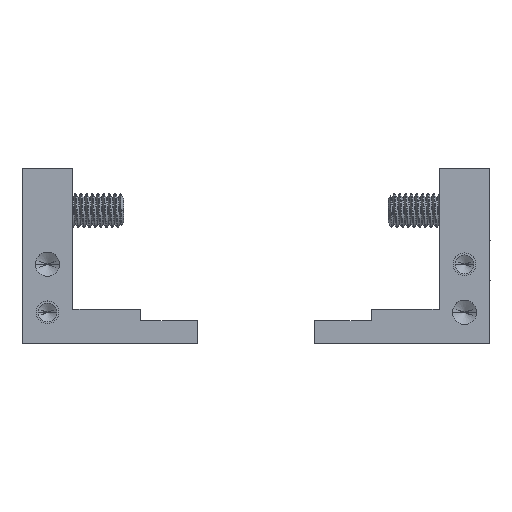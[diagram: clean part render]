
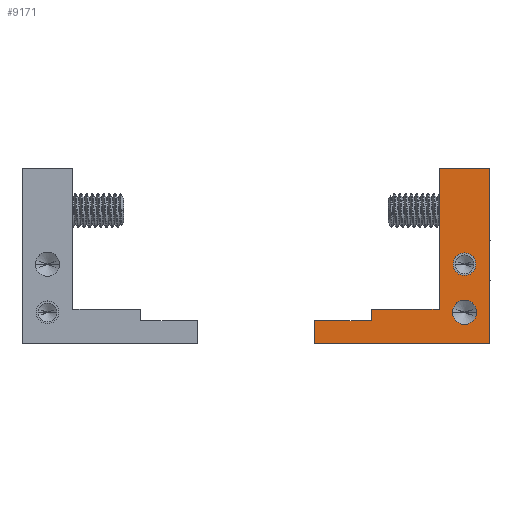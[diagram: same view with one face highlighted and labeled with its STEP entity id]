
A CAD part, top view. The second image highlights one B-rep face of the part: STEP entity #9171.
In plain terms, the highlighted planar face has unit normal (0, 0, 1) as drawn and (-1, 0, 0) by its records, which use the part's own axes.
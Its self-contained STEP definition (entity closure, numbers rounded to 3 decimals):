
#1 = LINE ( 'NONE', #17548, #19062 ) ;
#4 = VECTOR ( 'NONE', #5885, 1000. ) ;
#112 = VERTEX_POINT ( 'NONE', #8126 ) ;
#121 = CARTESIAN_POINT ( 'NONE',  ( -26., -14.5, -12. ) ) ;
#536 = ORIENTED_EDGE ( 'NONE', *, *, #7662, .F. ) ;
#1214 = FACE_BOUND ( 'NONE', #17981, .T. ) ;
#1224 = VERTEX_POINT ( 'NONE', #5536 ) ;
#1626 = VECTOR ( 'NONE', #16676, 1000. ) ;
#1667 = ORIENTED_EDGE ( 'NONE', *, *, #3433, .T. ) ;
#1972 = LINE ( 'NONE', #10066, #20265 ) ;
#2085 = DIRECTION ( 'NONE',  ( 0., 0., -1. ) ) ;
#2180 = DIRECTION ( 'NONE',  ( -1., 0., 0. ) ) ;
#2361 = FACE_OUTER_BOUND ( 'NONE', #20489, .T. ) ;
#2410 = ORIENTED_EDGE ( 'NONE', *, *, #9799, .T. ) ;
#2926 = LINE ( 'NONE', #17426, #8800 ) ;
#3356 = CARTESIAN_POINT ( 'NONE',  ( -26., -18.5, 9. ) ) ;
#3433 = EDGE_CURVE ( 'NONE', #13041, #7295, #20677, .T. ) ;
#3863 = CARTESIAN_POINT ( 'NONE',  ( -26., -14.5, -12. ) ) ;
#3928 = AXIS2_PLACEMENT_3D ( 'NONE', #11651, #8730, #13564 ) ;
#4052 = VECTOR ( 'NONE', #8304, 1000. ) ;
#4081 = DIRECTION ( 'NONE',  ( -1., 0., 0. ) ) ;
#4145 = ORIENTED_EDGE ( 'NONE', *, *, #14797, .F. ) ;
#4255 = CIRCLE ( 'NONE', #3928, 2. ) ;
#4938 = AXIS2_PLACEMENT_3D ( 'NONE', #7257, #4081, #9441 ) ;
#5142 = DIRECTION ( 'NONE',  ( 0., 0., 1. ) ) ;
#5155 = ORIENTED_EDGE ( 'NONE', *, *, #17009, .F. ) ;
#5161 = ORIENTED_EDGE ( 'NONE', *, *, #14125, .T. ) ;
#5438 = VECTOR ( 'NONE', #9025, 1000. ) ;
#5536 = CARTESIAN_POINT ( 'NONE',  ( -26., -14.5, -22. ) ) ;
#5885 = DIRECTION ( 'NONE',  ( 0., -1., 0. ) ) ;
#6160 = FACE_BOUND ( 'NONE', #10882, .T. ) ;
#6272 = CARTESIAN_POINT ( 'NONE',  ( -26., 12.5, 9. ) ) ;
#6496 = ORIENTED_EDGE ( 'NONE', *, *, #17879, .F. ) ;
#6906 = VERTEX_POINT ( 'NONE', #8457 ) ;
#7257 = CARTESIAN_POINT ( 'NONE',  ( -26., -13., 4.5 ) ) ;
#7295 = VERTEX_POINT ( 'NONE', #7349 ) ;
#7349 = CARTESIAN_POINT ( 'NONE',  ( -26., 12.5, 0. ) ) ;
#7364 = CARTESIAN_POINT ( 'NONE',  ( -26., -12.5, 9. ) ) ;
#7453 = CIRCLE ( 'NONE', #19189, 2.15 ) ;
#7662 = EDGE_CURVE ( 'NONE', #13019, #10571, #4255, .T. ) ;
#7793 = VECTOR ( 'NONE', #18549, 1000. ) ;
#7864 = ORIENTED_EDGE ( 'NONE', *, *, #17503, .F. ) ;
#7983 = CARTESIAN_POINT ( 'NONE',  ( -26., 12.5, 9. ) ) ;
#8126 = CARTESIAN_POINT ( 'NONE',  ( -26., -18.5, -22. ) ) ;
#8299 = EDGE_CURVE ( 'NONE', #14465, #16843, #1, .T. ) ;
#8304 = DIRECTION ( 'NONE',  ( 0., 1., 0. ) ) ;
#8457 = CARTESIAN_POINT ( 'NONE',  ( -26., -13., 6.65 ) ) ;
#8730 = DIRECTION ( 'NONE',  ( -1., 0., 0. ) ) ;
#8800 = VECTOR ( 'NONE', #15839, 1000. ) ;
#8908 = EDGE_CURVE ( 'NONE', #6906, #20052, #19741, .T. ) ;
#8937 = LINE ( 'NONE', #7364, #4 ) ;
#9025 = DIRECTION ( 'NONE',  ( 0., 0., -1. ) ) ;
#9171 = ADVANCED_FACE ( 'NONE', ( #1214, #6160, #2361 ), #17379, .F. ) ;
#9441 = DIRECTION ( 'NONE',  ( 0., 0., 1. ) ) ;
#9571 = CARTESIAN_POINT ( 'NONE',  ( -26., -4.5, 4.5 ) ) ;
#9799 = EDGE_CURVE ( 'NONE', #7295, #14465, #16356, .T. ) ;
#10065 = CARTESIAN_POINT ( 'NONE',  ( -26., -12.5, 0. ) ) ;
#10066 = CARTESIAN_POINT ( 'NONE',  ( -26., -18.5, 9. ) ) ;
#10230 = ORIENTED_EDGE ( 'NONE', *, *, #11253, .F. ) ;
#10571 = VERTEX_POINT ( 'NONE', #17526 ) ;
#10882 = EDGE_LOOP ( 'NONE', ( #5155, #536 ) ) ;
#11238 = CARTESIAN_POINT ( 'NONE',  ( -26., -4.5, 2.5 ) ) ;
#11253 = EDGE_CURVE ( 'NONE', #13041, #13153, #8937, .T. ) ;
#11341 = DIRECTION ( 'NONE',  ( -1., 0., 0. ) ) ;
#11651 = CARTESIAN_POINT ( 'NONE',  ( -26., -4.5, 4.5 ) ) ;
#11652 = LINE ( 'NONE', #121, #4052 ) ;
#11831 = CARTESIAN_POINT ( 'NONE',  ( -26., -13., 4.5 ) ) ;
#11889 = CARTESIAN_POINT ( 'NONE',  ( -26., -12.5, -12. ) ) ;
#13019 = VERTEX_POINT ( 'NONE', #11238 ) ;
#13041 = VERTEX_POINT ( 'NONE', #7983 ) ;
#13153 = VERTEX_POINT ( 'NONE', #3356 ) ;
#13183 = EDGE_CURVE ( 'NONE', #13358, #16843, #11652, .T. ) ;
#13262 = DIRECTION ( 'NONE',  ( 0., 0., -1. ) ) ;
#13358 = VERTEX_POINT ( 'NONE', #3863 ) ;
#13564 = DIRECTION ( 'NONE',  ( 0., 0., 1. ) ) ;
#13718 = LINE ( 'NONE', #18238, #7793 ) ;
#14047 = CARTESIAN_POINT ( 'NONE',  ( -26., -12.5, 0. ) ) ;
#14125 = EDGE_CURVE ( 'NONE', #1224, #112, #2926, .T. ) ;
#14465 = VERTEX_POINT ( 'NONE', #14047 ) ;
#14694 = AXIS2_PLACEMENT_3D ( 'NONE', #16749, #15379, #13262 ) ;
#14776 = DIRECTION ( 'NONE',  ( 0., 0., 1. ) ) ;
#14797 = EDGE_CURVE ( 'NONE', #1224, #13358, #13718, .T. ) ;
#15379 = DIRECTION ( 'NONE',  ( 1., 0., 0. ) ) ;
#15839 = DIRECTION ( 'NONE',  ( 0., -1., 0. ) ) ;
#15859 = AXIS2_PLACEMENT_3D ( 'NONE', #9571, #11341, #5142 ) ;
#15955 = DIRECTION ( 'NONE',  ( 0., 0., -1. ) ) ;
#16356 = LINE ( 'NONE', #10065, #1626 ) ;
#16676 = DIRECTION ( 'NONE',  ( 0., -1., 0. ) ) ;
#16749 = CARTESIAN_POINT ( 'NONE',  ( -26., -12.5, 9. ) ) ;
#16843 = VERTEX_POINT ( 'NONE', #11889 ) ;
#17009 = EDGE_CURVE ( 'NONE', #10571, #13019, #19573, .T. ) ;
#17260 = ORIENTED_EDGE ( 'NONE', *, *, #8908, .F. ) ;
#17379 = PLANE ( 'NONE',  #14694 ) ;
#17426 = CARTESIAN_POINT ( 'NONE',  ( -26., -12.5, -22. ) ) ;
#17503 = EDGE_CURVE ( 'NONE', #13153, #112, #1972, .T. ) ;
#17526 = CARTESIAN_POINT ( 'NONE',  ( -26., -4.5, 6.5 ) ) ;
#17548 = CARTESIAN_POINT ( 'NONE',  ( -26., -12.5, 9. ) ) ;
#17655 = ORIENTED_EDGE ( 'NONE', *, *, #8299, .T. ) ;
#17879 = EDGE_CURVE ( 'NONE', #20052, #6906, #7453, .T. ) ;
#17981 = EDGE_LOOP ( 'NONE', ( #17260, #6496 ) ) ;
#18238 = CARTESIAN_POINT ( 'NONE',  ( -26., -14.5, -22. ) ) ;
#18333 = ORIENTED_EDGE ( 'NONE', *, *, #13183, .F. ) ;
#18549 = DIRECTION ( 'NONE',  ( 0., 0., 1. ) ) ;
#18665 = CARTESIAN_POINT ( 'NONE',  ( -26., -13., 2.35 ) ) ;
#19062 = VECTOR ( 'NONE', #15955, 1000. ) ;
#19189 = AXIS2_PLACEMENT_3D ( 'NONE', #11831, #2180, #14776 ) ;
#19573 = CIRCLE ( 'NONE', #15859, 2. ) ;
#19741 = CIRCLE ( 'NONE', #4938, 2.15 ) ;
#20052 = VERTEX_POINT ( 'NONE', #18665 ) ;
#20265 = VECTOR ( 'NONE', #2085, 1000. ) ;
#20489 = EDGE_LOOP ( 'NONE', ( #17655, #18333, #4145, #5161, #7864, #10230, #1667, #2410 ) ) ;
#20677 = LINE ( 'NONE', #6272, #5438 ) ;
